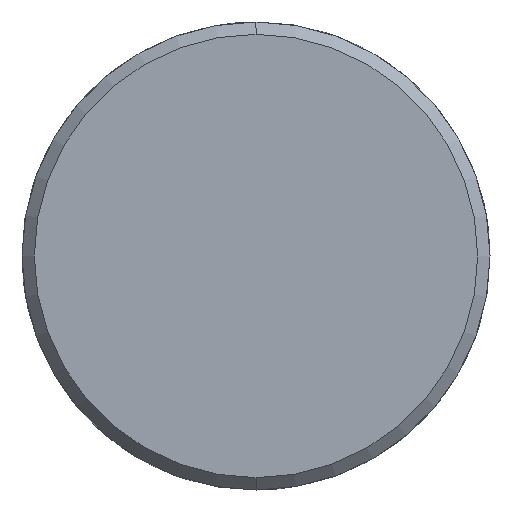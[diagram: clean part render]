
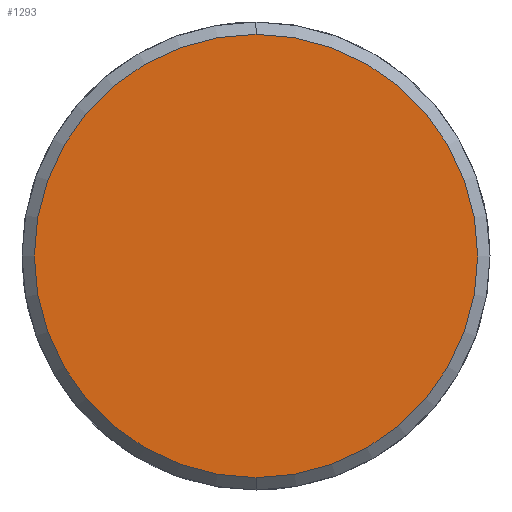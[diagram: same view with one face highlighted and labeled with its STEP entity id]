
A CAD part, left-side view. The second image highlights one B-rep face of the part: STEP entity #1293.
In plain terms, the highlighted planar face has unit normal (-1, 0, 0).
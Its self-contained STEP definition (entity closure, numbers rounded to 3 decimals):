
#1225=CARTESIAN_POINT('Vertex',(-7.,0.,-18.)) ;
#1228=CARTESIAN_POINT('Axis2P3D Location',(-7.,0.,0.)) ;
#1232=CARTESIAN_POINT('Vertex',(-7.,18.,0.)) ;
#1235=CARTESIAN_POINT('Axis2P3D Location',(-7.,0.,0.)) ;
#1239=CARTESIAN_POINT('Vertex',(-7.,0.,18.)) ;
#1261=CARTESIAN_POINT('Axis2P3D Location',(-7.,0.,0.)) ;
#1265=CARTESIAN_POINT('Vertex',(-7.,-18.,0.)) ;
#1268=CARTESIAN_POINT('Axis2P3D Location',(-7.,0.,0.)) ;
#1282=CARTESIAN_POINT('Axis2P3D Location',(-7.,0.,0.)) ;
#1229=DIRECTION('Axis2P3D Direction',(1.,0.,-0.)) ;
#1236=DIRECTION('Axis2P3D Direction',(1.,0.,-0.)) ;
#1262=DIRECTION('Axis2P3D Direction',(1.,0.,-0.)) ;
#1269=DIRECTION('Axis2P3D Direction',(1.,0.,-0.)) ;
#1283=DIRECTION('Axis2P3D Direction',(1.,0.,-0.)) ;
#1284=DIRECTION('Axis2P3D XDirection',(-0.,0.,-1.)) ;
#1230=AXIS2_PLACEMENT_3D('Circle Axis2P3D',#1228,#1229,$) ;
#1237=AXIS2_PLACEMENT_3D('Circle Axis2P3D',#1235,#1236,$) ;
#1263=AXIS2_PLACEMENT_3D('Circle Axis2P3D',#1261,#1262,$) ;
#1270=AXIS2_PLACEMENT_3D('Circle Axis2P3D',#1268,#1269,$) ;
#1285=AXIS2_PLACEMENT_3D('Plane Axis2P3D',#1282,#1283,#1284) ;
#1288=ORIENTED_EDGE('',*,*,#1234,.F.) ;
#1289=ORIENTED_EDGE('',*,*,#1272,.F.) ;
#1290=ORIENTED_EDGE('',*,*,#1267,.F.) ;
#1291=ORIENTED_EDGE('',*,*,#1241,.F.) ;
#1293=ADVANCED_FACE('351-25X26X100',(#1292),#1286,.F.) ;
#1231=CIRCLE('generated circle',#1230,18.) ;
#1238=CIRCLE('generated circle',#1237,18.) ;
#1264=CIRCLE('generated circle',#1263,18.) ;
#1271=CIRCLE('generated circle',#1270,18.) ;
#1234=EDGE_CURVE('',#1226,#1233,#1231,.T.) ;
#1241=EDGE_CURVE('',#1233,#1240,#1238,.T.) ;
#1267=EDGE_CURVE('',#1240,#1266,#1264,.T.) ;
#1272=EDGE_CURVE('',#1266,#1226,#1271,.T.) ;
#1287=EDGE_LOOP('',(#1288,#1289,#1290,#1291)) ;
#1292=FACE_OUTER_BOUND('',#1287,.T.) ;
#1286=PLANE('Plane',#1285) ;
#1226=VERTEX_POINT('',#1225) ;
#1233=VERTEX_POINT('',#1232) ;
#1240=VERTEX_POINT('',#1239) ;
#1266=VERTEX_POINT('',#1265) ;
